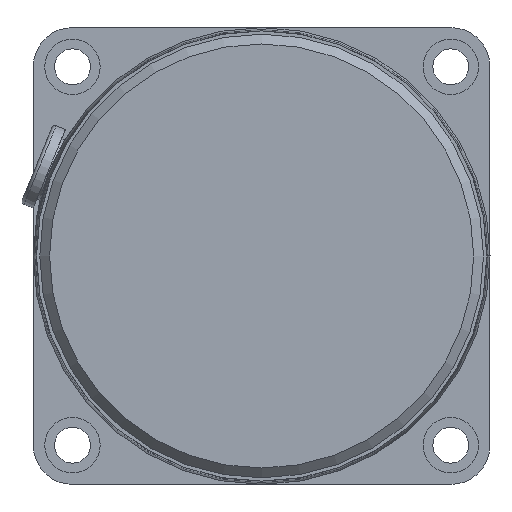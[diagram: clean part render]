
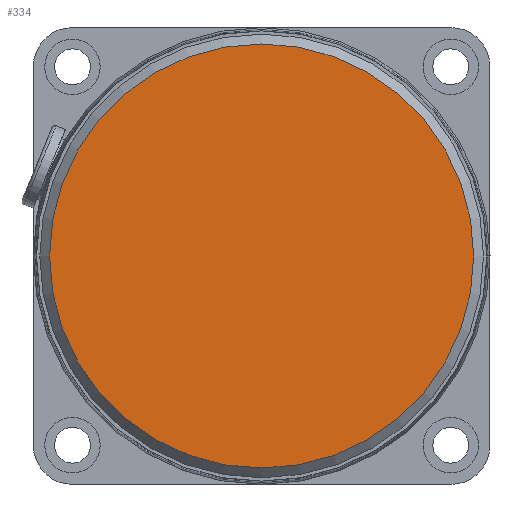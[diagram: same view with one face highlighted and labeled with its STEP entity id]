
A CAD part, left-side view. The second image highlights one B-rep face of the part: STEP entity #334.
In plain terms, the highlighted planar face has unit normal (-1, 0, 0).
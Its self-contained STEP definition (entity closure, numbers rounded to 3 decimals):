
#318=CARTESIAN_POINT('',(0.0,16.25,0.0));
#319=DIRECTION('',(-1.0,0.0,0.0));
#320=DIRECTION('',(0.0,0.0,1.0));
#321=AXIS2_PLACEMENT_3D('',#318,#319,#320);
#322=PLANE('',#321);
#323=CARTESIAN_POINT('',(0.0,32.5,0.0));
#324=VERTEX_POINT('',#323);
#325=CARTESIAN_POINT('',(0.,0.,0.0));
#326=DIRECTION('',(1.0,0.0,0.0));
#327=DIRECTION('',(0.0,1.0,0.0));
#328=AXIS2_PLACEMENT_3D('',#325,#326,#327);
#329=CIRCLE('',#328,32.5);
#330=EDGE_CURVE('',#324,#324,#329,.T.);
#331=ORIENTED_EDGE('',*,*,#330,.F.);
#332=EDGE_LOOP('',(#331));
#333=FACE_OUTER_BOUND('',#332,.T.);
#334=ADVANCED_FACE('',(#333),#322,.T.);
